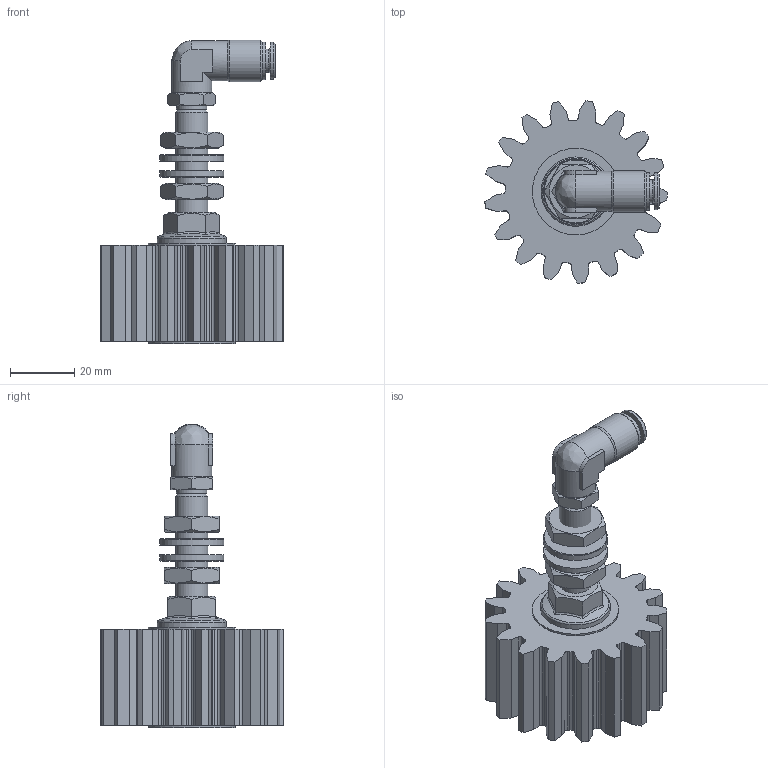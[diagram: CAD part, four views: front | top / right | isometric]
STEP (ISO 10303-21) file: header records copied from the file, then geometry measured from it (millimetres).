
FILE_DESCRIPTION (( 'STEP AP214' ), '1' );
FILE_NAME ('012_13_03_30_17AZ.STEP', '2026-04-01T13:41:27', ( '' ), ( '' ), 'SwSTEP 2.0', 'SolidWorks 2022', '' );
FILE_SCHEMA (( 'AUTOMOTIVE_DESIGN' ));
Length unit declared in the file: millimetre
Products named in the file (13): 12012_06_01_Scheibe-CRS-VA_27.SLDASM; U_Scheibe_10.5; H214667-HDS_1-8_M6X1Z; OR 7.2X1.9; Mutter_M10; Schmierzahnrad_03_30_17G; R11155-N2; 012_06_Senkschraube; Achse_M10_1_Schmierzahnrad; 012_13_03_30_17AZ; H202225_HDS_022_6_M6_28.09.22; DR6-C_HDX_25.07.16
Assembly tree (14 placements, depth 4):
  012_13_03_30_17AZ
    Achse_M10_1_Schmierzahnrad
    012_06_Senkschraube
    12012_06_01_Scheibe-CRS-VA_27.SLDASM
    Mutter_M10  x2
    U_Scheibe_10.5  x2
    H202225_HDS_022_6_M6_28.09.22
      R11155-N2
      DR6-C_HDX_25.07.16
      H214667-HDS_1-8_M6X1Z
        H214667-HDS_1-8_M6X1Z
        OR 7.2X1.9
    Schmierzahnrad_03_30_17G
Bounding box: 56.82 x 56.82 x 94.7 mm (x, y, z)
Volume: 72341.4 mm3; surface area: 25251.4 mm2
Topology: 12 solids, 12 shells, 671 faces, 1800 edges, 1190 vertices
Faces by surface type: plane 431, bspline 95, cylinder 91, cone 50, torus 4
Full cylindrical faces by diameter (mm): 2 x1, 4 x1, 4.6 x1, 5 x1, 5.5 x1, 6 x2, 6.2 x1, 6.3 x1, 7.2 x1, 8.5 x2, 9 x2, 9.5 x1, 9.9 x1, 10 x2, 10.1 x2, 10.3 x1, 10.5 x2, 11.5 x1, 11.7 x1, 12.5 x2, 13 x1, 20 x2, 21.6 x1, 27 x2
Entity records: 28393 total; most frequent: CARTESIAN_POINT 11502, ORIENTED_EDGE 3290, DIRECTION 2741, EDGE_CURVE 1645, LINE 1143, VECTOR 1143, VERTEX_POINT 1122, AXIS2_PLACEMENT_3D 799
